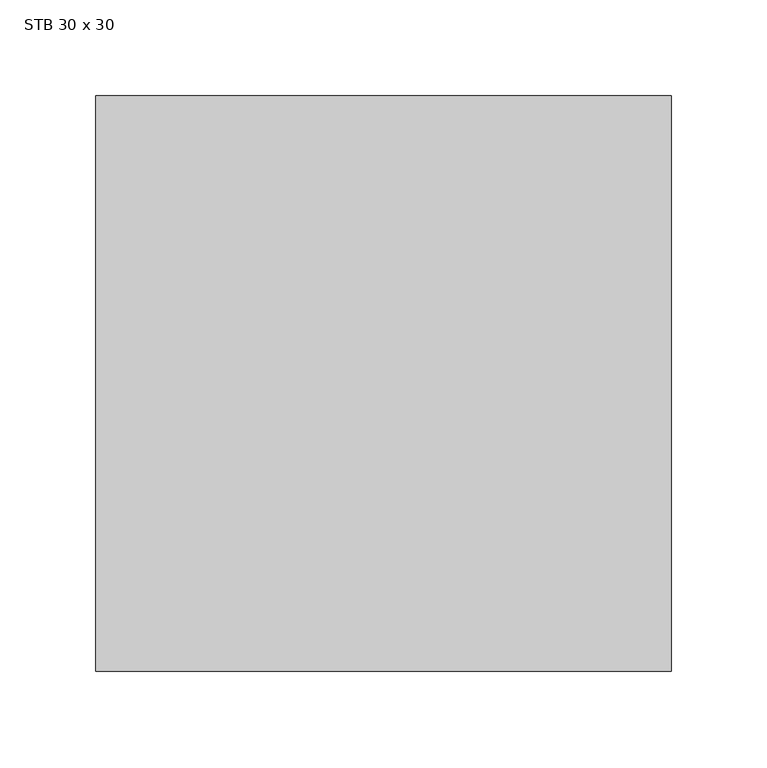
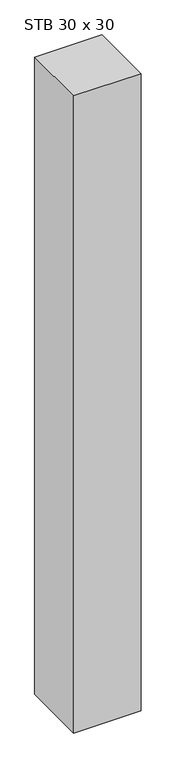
"""IFC4 building model written with IfcOpenShell, lengths in millimetres: column geometry, STB Stütze - rechteckig : STB 30 x 30."""

from ifc_helpers import new_model, si_unit, frame, origin, place, context, project, spatial, polyline, outline, extrude, source, transform, mapped, element, save


def stb_30_x_30_1b1dcc2f(model_context):
    return source(origin(), model_context, "Body", "SweptSolid", [
        extrude(outline(polyline([(150.0, 150.0), (150.0, -150.0), (-150.0, -150.0), (-150.0, 150.0), (150.0, 150.0)])), frame((0.0, 0.0, 6000.0), z_axis=(0.0, 0.0, 1.0), x_axis=(1.0, 0.0, 0.0)), (0.0, 0.0, 1.0), 3000.0),
    ])


if __name__ == "__main__":
    model = new_model("IFC4")
    model_context = context("Model", 3, world=origin())
    ifc_project = project(units=[si_unit("LENGTHUNIT", "METRE", prefix="MILLI")], contexts=[model_context])
    site = spatial("IfcSite", under=ifc_project)
    building = spatial("IfcBuilding", under=site)
    placement = place(None, origin())
    stb_30_x_30_shape = stb_30_x_30_1b1dcc2f(model_context)
    element("IfcColumn", 1, ObjectType="STB Stütze - rechteckig : STB 30 x 30", at=placement, inside=building, context=model_context, shape_type="MappedRepresentation", body=[
        mapped(stb_30_x_30_shape, transform((0.0, 0.0, 0.0), x_axis=(1.0, 0.0, 0.0), y_axis=(0.0, 1.0, 0.0), z_axis=(0.0, 0.0, 1.0))),
    ])
    save(model, "model.ifc")
